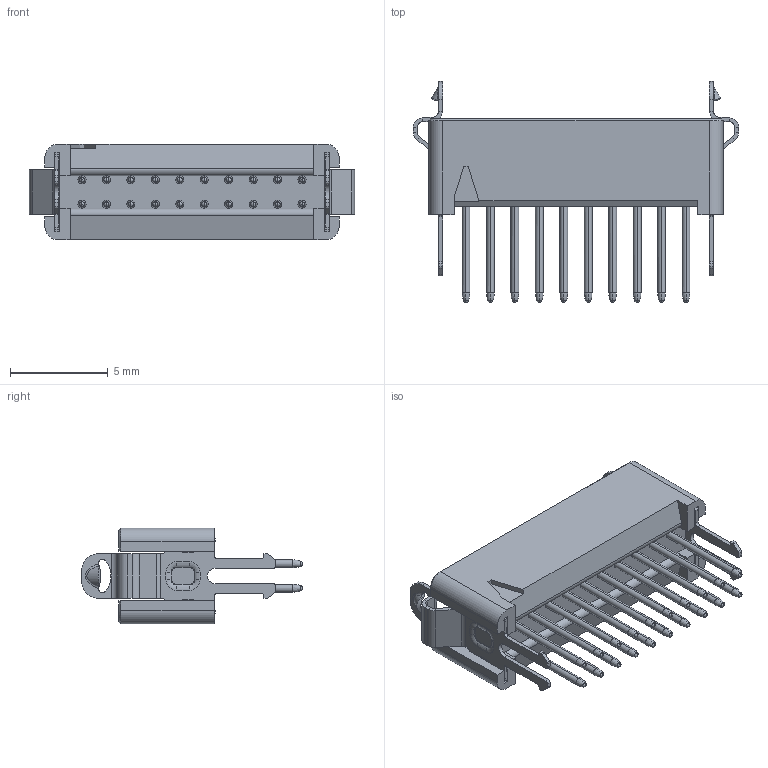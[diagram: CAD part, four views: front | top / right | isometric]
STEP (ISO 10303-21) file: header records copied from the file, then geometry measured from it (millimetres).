
FILE_DESCRIPTION((''),'2;1');
FILE_NAME('G125-MV22005L2P_ASM','2013-08-27T',('sflower'),(''),'PRO/ENGINEER BY PARAMETRIC TECHNOLOGY CORPORATION, 2013150','PRO/ENGINEER BY PARAMETRIC TECHNOLOGY CORPORATION, 2013150','');
FILE_SCHEMA(('CONFIG_CONTROL_DESIGN'));
Length unit declared in the file: millimetre
Products named in the file (4): G125-3012096; G125-1040005; G125-416; G125-MV22005L2P_ASM
Assembly tree (23 placements, depth 2):
  G125-MV22005L2P_ASM
    G125-3012096
    G125-1040005  x20
    G125-416  x2
Bounding box: 16.63 x 11.3 x 4.9 mm (x, y, z)
Volume: 191.9 mm3; surface area: 762.8 mm2
Topology: 23 solids, 23 shells, 3395 faces, 7732 edges, 4368 vertices
Faces by surface type: bspline 2266, plane 413, torus 392, cylinder 316, cone 8
Entity records: 22710 total; most frequent: CARTESIAN_POINT 7613, ORIENTED_EDGE 2460, DIRECTION 2256, PRESENTATION_STYLE_ASSIGNMENT 1235, STYLED_ITEM 1235, CURVE_STYLE 1230, EDGE_CURVE 1230, AXIS2_PLACEMENT_3D 851
